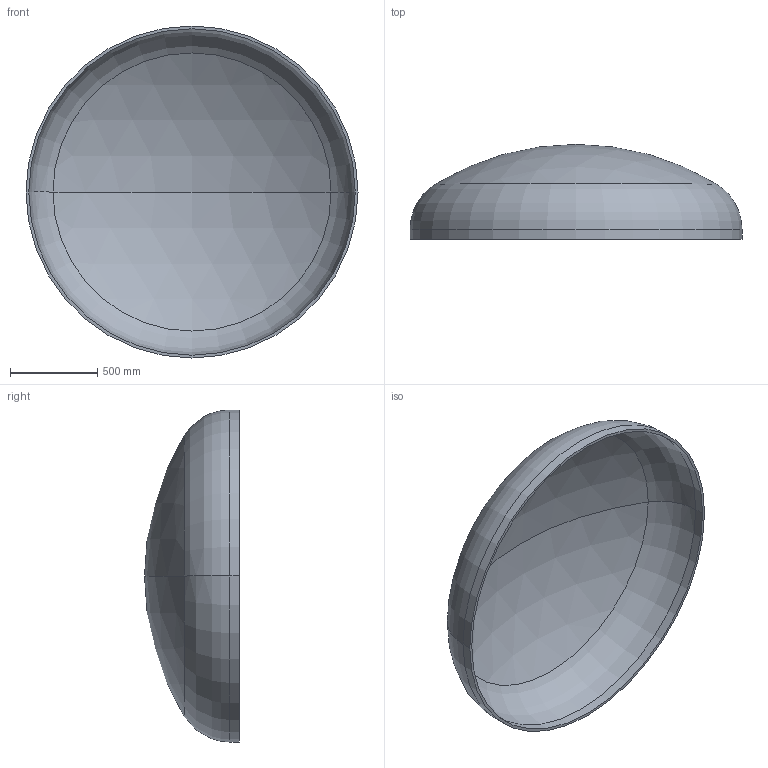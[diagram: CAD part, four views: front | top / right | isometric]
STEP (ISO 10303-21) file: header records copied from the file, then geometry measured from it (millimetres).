
FILE_DESCRIPTION (( 'STEP AP203' ), '1' );
FILE_NAME ('DIN 28013 Korbbogenform_-_Boden DIN 28013 - 1900 x 55 - I - s=16.step', '2016-07-01T12:57:10', ( '' ), ( '' ), 'SwSTEP 2.0', 'SolidWorks 2013', '' );
FILE_SCHEMA (( 'CONFIG_CONTROL_DESIGN' ));
Length unit declared in the file: millimetre
Products named in the file (1): DIN 28013 Korbbogenform_-_Boden DIN 28013 - 1900 x 55 - I - s=16
Bounding box: 1900 x 543.07 x 1900 mm (x, y, z)
Volume: 67234267.2 mm3; surface area: 8499516.6 mm2
Topology: 1 solids, 1 shells, 13 faces, 24 edges, 14 vertices
Faces by surface type: torus 4, cylinder 4, sphere 4, plane 1
Entity records: 407 total; most frequent: DIRECTION 72, CARTESIAN_POINT 52, ORIENTED_EDGE 48, AXIS2_PLACEMENT_3D 34, EDGE_CURVE 24, CIRCLE 20, VERTEX_POINT 14, EDGE_LOOP 14
